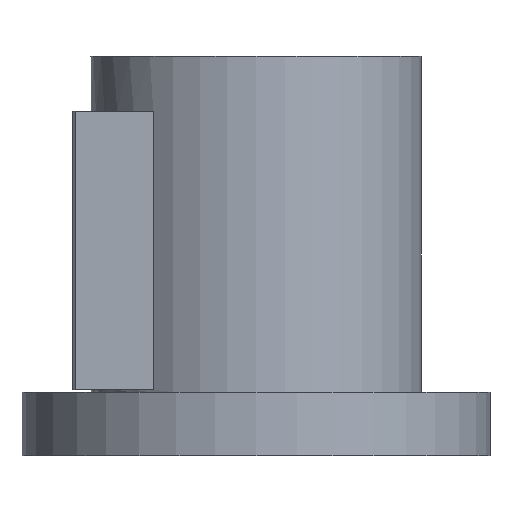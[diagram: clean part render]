
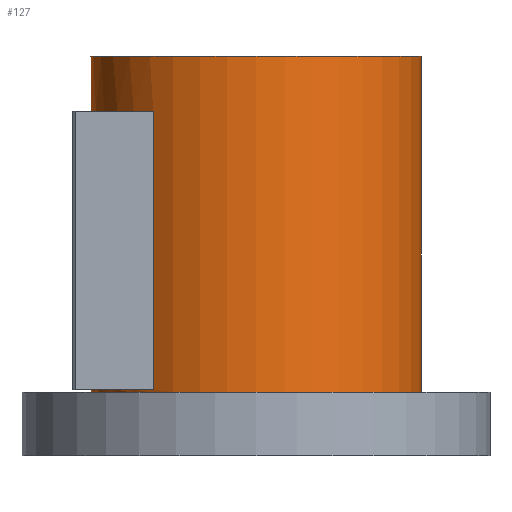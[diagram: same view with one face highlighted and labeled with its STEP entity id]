
A CAD part, front view. The second image highlights one B-rep face of the part: STEP entity #127.
In plain terms, the highlighted cylindrical face has radius 57.5 mm (diameter 115 mm), a full revolution.
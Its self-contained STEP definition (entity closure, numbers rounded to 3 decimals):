
#127=ADVANCED_FACE('',(#200,#201,#202),#155,.T.);
#155=CYLINDRICAL_SURFACE('',#508,57.5);
#168=LINE('',#698,#184);
#169=LINE('',#702,#185);
#184=VECTOR('',#568,1.);
#185=VECTOR('',#571,1.);
#200=FACE_BOUND('',#245,.T.);
#201=FACE_BOUND('',#246,.T.);
#202=FACE_BOUND('',#247,.T.);
#245=EDGE_LOOP('',(#305));
#246=EDGE_LOOP('',(#306));
#247=EDGE_LOOP('',(#307,#308,#309,#310));
#305=ORIENTED_EDGE('',*,*,#431,.F.);
#306=ORIENTED_EDGE('',*,*,#432,.T.);
#307=ORIENTED_EDGE('',*,*,#433,.F.);
#308=ORIENTED_EDGE('',*,*,#434,.F.);
#309=ORIENTED_EDGE('',*,*,#435,.T.);
#310=ORIENTED_EDGE('',*,*,#436,.F.);
#393=VERTEX_POINT('',#692);
#394=VERTEX_POINT('',#694);
#395=VERTEX_POINT('',#696);
#396=VERTEX_POINT('',#697);
#397=VERTEX_POINT('',#699);
#398=VERTEX_POINT('',#701);
#431=EDGE_CURVE('',#393,#393,#475,.T.);
#432=EDGE_CURVE('',#394,#394,#476,.T.);
#433=EDGE_CURVE('',#395,#396,#477,.T.);
#434=EDGE_CURVE('',#397,#395,#168,.T.);
#435=EDGE_CURVE('',#397,#398,#478,.T.);
#436=EDGE_CURVE('',#396,#398,#169,.T.);
#475=CIRCLE('',#504,57.5);
#476=CIRCLE('',#505,57.5);
#477=CIRCLE('',#506,57.5);
#478=CIRCLE('',#507,57.5);
#504=AXIS2_PLACEMENT_3D('',#691,#562,#563);
#505=AXIS2_PLACEMENT_3D('',#693,#564,#565);
#506=AXIS2_PLACEMENT_3D('',#695,#566,#567);
#507=AXIS2_PLACEMENT_3D('',#700,#569,#570);
#508=AXIS2_PLACEMENT_3D('',#703,#572,#573);
#562=DIRECTION('',(0.,0.,1.));
#563=DIRECTION('',(1.,0.,0.));
#564=DIRECTION('',(0.,0.,1.));
#565=DIRECTION('',(1.,0.,0.));
#566=DIRECTION('',(0.,0.,-1.));
#567=DIRECTION('',(-1.,0.,0.));
#568=DIRECTION('',(0.,0.,1.));
#569=DIRECTION('',(0.,0.,-1.));
#570=DIRECTION('',(-1.,0.,0.));
#571=DIRECTION('',(0.,0.,-1.));
#572=DIRECTION('',(0.,0.,-1.));
#573=DIRECTION('',(-1.,0.,0.));
#691=CARTESIAN_POINT('',(0.,0.,139.));
#692=CARTESIAN_POINT('',(57.5,0.,139.));
#693=CARTESIAN_POINT('',(0.,0.,22.));
#694=CARTESIAN_POINT('',(57.5,0.,22.));
#695=CARTESIAN_POINT('',(0.,0.,120.));
#696=CARTESIAN_POINT('',(-35.795,-45.,120.));
#697=CARTESIAN_POINT('',(-35.795,45.,120.));
#698=CARTESIAN_POINT('',(-35.795,-45.,139.));
#699=CARTESIAN_POINT('',(-35.795,-45.,23.));
#700=CARTESIAN_POINT('',(0.,0.,23.));
#701=CARTESIAN_POINT('',(-35.795,45.,23.));
#702=CARTESIAN_POINT('',(-35.795,45.,139.));
#703=CARTESIAN_POINT('',(0.,0.,139.));
